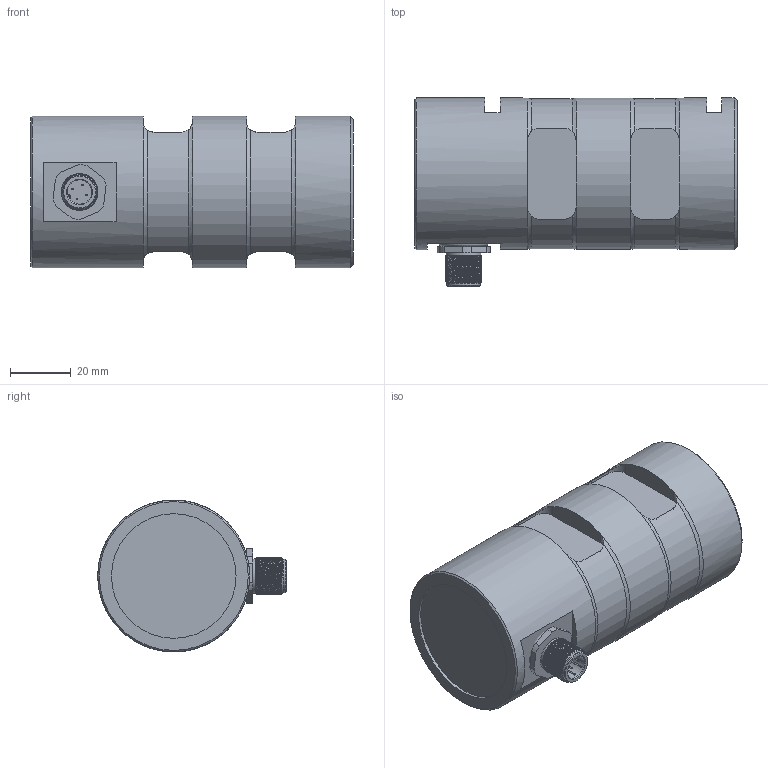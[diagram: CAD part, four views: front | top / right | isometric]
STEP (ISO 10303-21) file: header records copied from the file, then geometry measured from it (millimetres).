
FILE_DESCRIPTION(/* description */ ('Alibre Inc.'),/* implementation_level */ '2;1');
FILE_NAME(/* name */ 'export-695BB6DE-553D-4F49-BAA9-2E4026CB8D18',/* time_stamp */ '2019-07-19T10:47:18+02:00',/* author */ (''),/* organization */ (''),/* preprocessor_version */ 'ST-DEVELOPER v17',/* originating_system */ 'Alibre',/* authorisation */ '');
FILE_SCHEMA (('CONFIG_CONTROL_DESIGN'));
Length unit declared in the file: centimetre
Products named in the file (3): ID_1
Bounding box: 106 x 62 x 50 mm (x, y, z)
Volume: 254429.7 mm3; surface area: 97639.6 mm2
Topology: 6 solids, 7 shells, 171 faces, 391 edges, 243 vertices
Faces by surface type: plane 74, cylinder 56, bspline 23, torus 10, cone 8
Full cylindrical faces by diameter (mm): 0.5 x8, 8 x2, 10 x1, 11 x1, 11.5 x1, 13 x2, 14.5 x1, 41 x1, 50 x3
Entity records: 14779 total; most frequent: CARTESIAN_POINT 11409, ORIENTED_EDGE 710, DIRECTION 441, EDGE_CURVE 348, VERTEX_POINT 228, EDGE_LOOP 220, FACE_BOUND 220, AXIS2_PLACEMENT_3D 195
